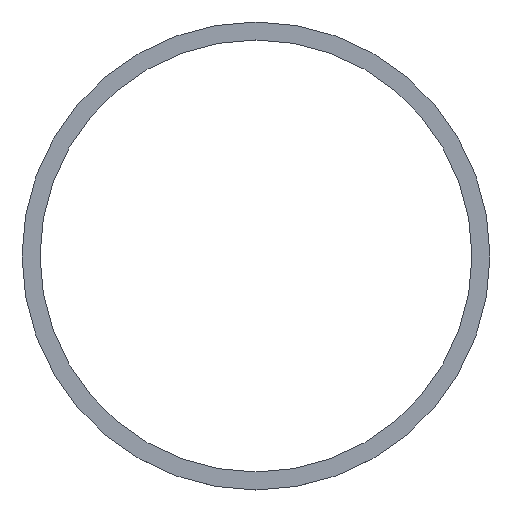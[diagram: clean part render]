
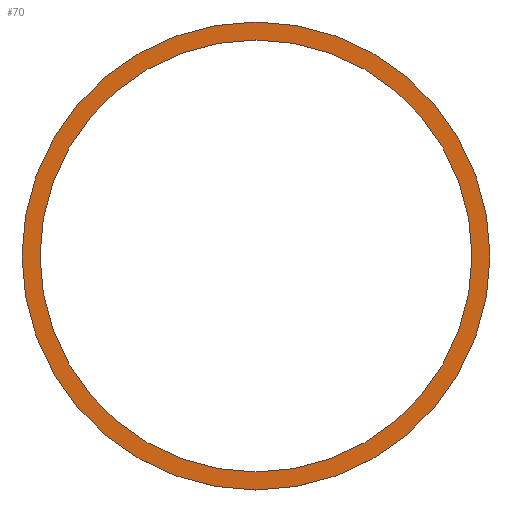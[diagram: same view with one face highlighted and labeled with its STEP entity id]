
A CAD part, top view. The second image highlights one B-rep face of the part: STEP entity #70.
In plain terms, the highlighted planar face has unit normal (0, 0, 1).
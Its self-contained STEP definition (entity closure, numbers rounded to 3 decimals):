
#24 = VERTEX_POINT('',#25);
#25 = CARTESIAN_POINT('',(28.,15.,23.8));
#31 = EDGE_CURVE('',#24,#24,#32,.T.);
#32 = CIRCLE('',#33,13.);
#33 = AXIS2_PLACEMENT_3D('',#34,#35,#36);
#34 = CARTESIAN_POINT('',(15.,15.,23.8));
#35 = DIRECTION('',(0.,0.,1.));
#36 = DIRECTION('',(1.,0.,0.));
#70 = ADVANCED_FACE('',(#71,#74),#85,.T.);
#71 = FACE_BOUND('',#72,.T.);
#72 = EDGE_LOOP('',(#73));
#73 = ORIENTED_EDGE('',*,*,#31,.T.);
#74 = FACE_BOUND('',#75,.T.);
#75 = EDGE_LOOP('',(#76));
#76 = ORIENTED_EDGE('',*,*,#77,.T.);
#77 = EDGE_CURVE('',#78,#78,#80,.T.);
#78 = VERTEX_POINT('',#79);
#79 = CARTESIAN_POINT('',(27.,15.,23.8));
#80 = CIRCLE('',#81,12.);
#81 = AXIS2_PLACEMENT_3D('',#82,#83,#84);
#82 = CARTESIAN_POINT('',(15.,15.,23.8));
#83 = DIRECTION('',(0.,0.,-1.));
#84 = DIRECTION('',(1.,0.,0.));
#85 = PLANE('',#86);
#86 = AXIS2_PLACEMENT_3D('',#87,#88,#89);
#87 = CARTESIAN_POINT('',(15.,15.,23.8));
#88 = DIRECTION('',(0.,0.,1.));
#89 = DIRECTION('',(1.,0.,0.));
